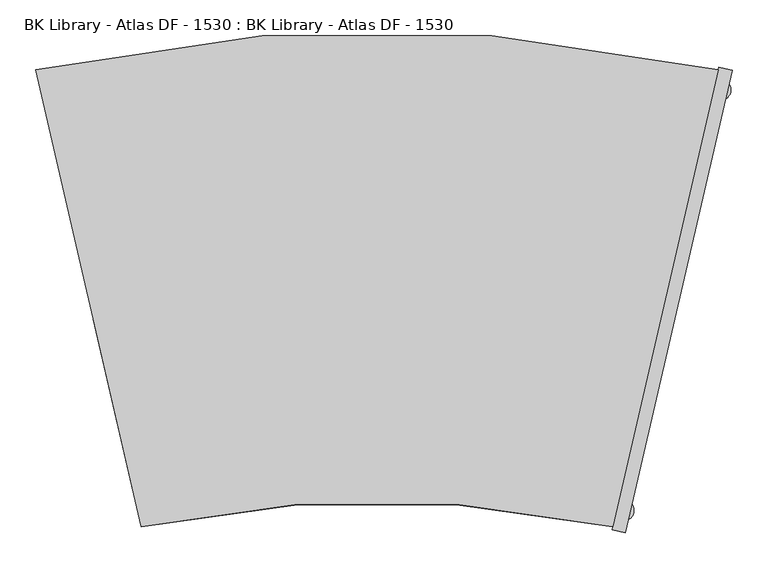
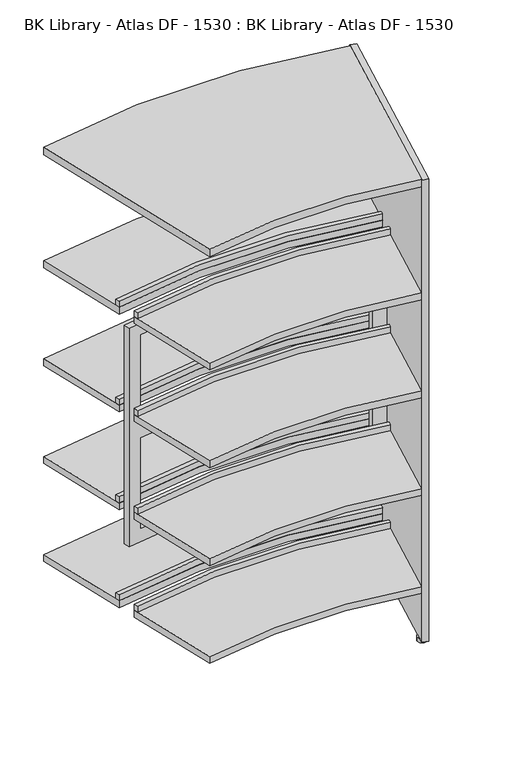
"""IFC4 building model written with IfcOpenShell, lengths in millimetres: furniture geometry, BK Library - Atlas DF - 1530 : BK Library - Atlas DF - 1530."""

from ifc_helpers import new_model, si_unit, point, frame, frame_2d, origin, origin_with_axes, place, context, project, spatial, polyline, circle_curve, trimmed, segment, composite_curve, outline, extrude, source, transform, mapped, element, save
from ifc_brep_helpers import plane_surface, cylinder_surface, revolved_surface, advanced_brep


def bk_library_atlas_df_1530_bk_library_atlas_df_1530_acc2bcb0(model_context):
    return source(origin(), model_context, "Body", "SolidModel", [
        extrude(outline(composite_curve([segment(trimmed(circle_curve(frame_2d((0.0, -1777.8812307)), 2148.52767), [point((-474.1962162, 317.663829))], [point((474.1962162, 317.663829))], False, "CARTESIAN"), True, "CONTINUOUS"), segment(polyline([(474.1962162, 317.663829), (327.6944521, -317.663829)]), True, "CONTINUOUS"), segment(trimmed(circle_curve(frame_2d((0.0, -1840.4430404)), 1557.6392973), [point((327.6944521, -317.663829))], [point((-327.6944521, -317.663829))], True, "CARTESIAN"), True, "CONTINUOUS"), segment(polyline([(-327.6944521, -317.663829), (-474.1962162, 317.663829)]), True, "CONTINUOUS")], self_intersect=False)), frame((0.0, 0.0, 1501.6999998), z_axis=(0.0, 0.0, 1.0), x_axis=(1.0, 0.0, 0.0)), (0.0, 0.0, 1.0), 24.0),
        advanced_brep(
        [(-403.1922937, 9.7442892, 1106.1999998), (-398.6983746, -9.7442892, 1106.1999998), (398.6983746, -9.7442892, 1106.1999998), (403.1922937, 9.7442892, 1106.1999998), (-403.1922937, 9.7442892, 391.1999998), (403.1922937, 9.7442892, 391.1999998), (398.6983746, -9.7442892, 391.1999998), (-398.6983746, -9.7442892, 391.1999998), (359.7000463, -1.6061954, 1066.1999998), (359.7000463, -1.6061954, 768.6999998), (-359.7212176, -1.6103769, 768.6999998), (-359.7212176, -1.6103769, 1066.1999998), (-359.7212176, -1.6103769, 728.6999998), (359.7000463, -1.6061954, 728.6999998), (359.7000463, -1.6061954, 431.1999998), (-359.7212176, -1.6103769, 431.1999998), (359.7000463, 18.8192746, 768.6999998), (359.7000463, 18.8192746, 1066.1999998), (-359.7212176, 18.8151191, 1066.1999998), (-359.7212176, 18.8151191, 768.6999998), (359.7000463, 18.8192746, 728.6999998), (-359.7212176, 18.8151191, 728.6999998), (-359.7212176, 18.8151191, 431.1999998), (359.7000463, 18.8192746, 431.1999998)],
        [
            (0, 1),
            (1, 2, circle_curve(frame((0.0, -1822.824997, 1106.1999998), z_axis=(0.0, 0.0, -1.0), x_axis=(1.0, 0.0, 0.0)), 1856.4002927)),
            (2, 3),
            (3, 0, circle_curve(frame((0.0, -1813.8149651, 1106.1999998), z_axis=(0.0, 0.0, 1.0), x_axis=(1.0, 0.0, 0.0)), 1867.6007014)),
            (4, 5, circle_curve(frame((0.0, -1813.8149651, 391.1999998), z_axis=(0.0, 0.0, -1.0), x_axis=(1.0, 0.0, 0.0)), 1867.6007014)),
            (5, 6),
            (6, 7, circle_curve(frame((0.0, -1822.824997, 391.1999998), z_axis=(0.0, 0.0, 1.0), x_axis=(1.0, 0.0, 0.0)), 1856.4002927)),
            (7, 4),
            (0, 4),
            (7, 1),
            (2, 6),
            (5, 3),
            (8, 9),
            (9, 10, circle_curve(frame((0.0, -1822.824997, 768.6999998), z_axis=(0.0, 0.0, 1.0), x_axis=(1.0, 0.0, 0.0)), 1856.4002927)),
            (10, 11),
            (11, 8, circle_curve(frame((0.0, -1822.824997, 1066.1999998), z_axis=(0.0, 0.0, -1.0), x_axis=(1.0, 0.0, 0.0)), 1856.4002927)),
            (12, 13, circle_curve(frame((0.0, -1822.824997, 728.6999998), z_axis=(0.0, 0.0, -1.0), x_axis=(1.0, 0.0, 0.0)), 1856.4002927)),
            (13, 14),
            (14, 15, circle_curve(frame((0.0, -1822.824997, 431.1999998), z_axis=(0.0, 0.0, 1.0), x_axis=(1.0, 0.0, 0.0)), 1856.4002927)),
            (15, 12),
            (16, 17),
            (17, 18, circle_curve(frame((0.0, -1813.8149651, 1066.1999998), z_axis=(0.0, 0.0, 1.0), x_axis=(1.0, 0.0, 0.0)), 1867.6007014)),
            (18, 19),
            (19, 16, circle_curve(frame((0.0, -1813.8149651, 768.6999998), z_axis=(0.0, 0.0, -1.0), x_axis=(1.0, 0.0, 0.0)), 1867.6007014)),
            (20, 21, circle_curve(frame((0.0, -1813.8149651, 728.6999998), z_axis=(0.0, 0.0, 1.0), x_axis=(1.0, 0.0, 0.0)), 1867.6007014)),
            (21, 22),
            (22, 23, circle_curve(frame((0.0, -1813.8149651, 431.1999998), z_axis=(0.0, 0.0, -1.0), x_axis=(1.0, 0.0, 0.0)), 1867.6007014)),
            (23, 20),
            (16, 9),
            (8, 17),
            (11, 18),
            (10, 19),
            (20, 13),
            (12, 21),
            (15, 22),
            (14, 23),
        ],
        [
            plane_surface(frame((-326.7956683, -321.5615447, 1106.1999998), z_axis=(0.0, 0.0, 1.0), x_axis=(0.224695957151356, -0.9744289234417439, 0.0))),
            plane_surface(frame((-326.7956683, -321.5615447, 391.1999998), z_axis=(0.0, 0.0, -1.0), x_axis=(-0.224695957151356, 0.9744289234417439, 0.0))),
            plane_surface(frame((-403.1922937, 9.7442892, 1106.1999998), z_axis=(-0.9744289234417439, -0.224695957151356, 0.0), x_axis=(0.0, 0.0, -1.0))),
            plane_surface(frame((398.6983746, -9.7442892, 1106.1999998), z_axis=(0.974428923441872, -0.22469595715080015, 0.0), x_axis=(0.0, 0.0, -1.0))),
            revolved_surface(polyline([(1856.4002927, -1822.824997, 391.1999998), (1856.4002927, -1822.824997, 1106.1999998)]), (0.0, -1822.824997, 391.1999998), (0.0, 0.0, -1.0)),
            cylinder_surface(frame((0.0, -1813.8149651, 391.1999998), z_axis=(0.0, 0.0, 1.0), x_axis=(1.0, 0.0, 0.0)), 1867.6007014),
            plane_surface(frame((359.7000463, -114.4923923, 768.6999998), z_axis=(-1.0, 0.0, 0.0), x_axis=(0.0, 1.0, 0.0))),
            plane_surface(frame((359.7000463, -114.4923923, 1066.1999998), z_axis=(0.0, 0.0, -1.0), x_axis=(0.0, 1.0, 0.0))),
            plane_surface(frame((-359.7212176, -114.4923923, 1066.1999998), z_axis=(1.0, 0.0, 0.0), x_axis=(0.0, 1.0, 0.0))),
            plane_surface(frame((-359.7212176, -114.4923923, 768.6999998), z_axis=(0.0, 0.0, 1.0), x_axis=(0.0, 1.0, 0.0))),
            plane_surface(frame((359.7000463, -114.4923923, 728.6999998), z_axis=(0.0, 0.0, -1.0), x_axis=(0.0, 1.0, 0.0))),
            plane_surface(frame((-359.7212176, -114.4923923, 728.6999998), z_axis=(1.0, 0.0, 0.0), x_axis=(0.0, 1.0, 0.0))),
            plane_surface(frame((-359.7212176, -114.4923923, 431.1999998), z_axis=(0.0, 0.0, 1.0), x_axis=(0.0, 1.0, 0.0))),
            plane_surface(frame((359.7000463, -114.4923923, 431.1999998), z_axis=(-1.0, 0.0, 0.0), x_axis=(0.0, 1.0, 0.0))),
        ],
        [
            (0, [[1, 2, 3, 4]]),
            (1, [[5, 6, 7, 8]]),
            (2, [[-1, 9, -8, 10]]),
            (3, [[-3, 11, -6, 12]]),
            (4, [[-2, -10, -7, -11], [13, 14, 15, 16], [17, 18, 19, 20]]),
            (5, [[-4, -12, -5, -9], [21, 22, 23, 24], [25, 26, 27, 28]]),
            (6, [[29, -13, 30, -21]]),
            (7, [[-30, -16, 31, -22]]),
            (8, [[-31, -15, 32, -23]]),
            (9, [[-29, -24, -32, -14]]),
            (10, [[33, -17, 34, -25]]),
            (11, [[-34, -20, 35, -26]]),
            (12, [[-35, -19, 36, -27]]),
            (13, [[-33, -28, -36, -18]]),
        ],
    ),
        extrude(outline(composite_curve([segment(trimmed(circle_curve(frame_2d((0.0, -1840.4430404)), 1557.6392973), [point((327.6944521, -317.663829))], [point((-327.6944521, -317.663829))], True, "CARTESIAN"), True, "CONTINUOUS"), segment(polyline([(-327.6944521, -317.663829), (-394.2058088, -29.2269986)]), True, "CONTINUOUS"), segment(trimmed(circle_curve(frame_2d((0.0, -1785.1487517)), 1799.627579), [point((-394.2058088, -29.2269986))], [point((394.2058088, -29.2269986))], False, "CARTESIAN"), True, "CONTINUOUS"), segment(polyline([(394.2058088, -29.2269986), (327.6944521, -317.663829)]), True, "CONTINUOUS")], self_intersect=False)), frame((0.0, 0.0, 171.6999998), z_axis=(0.0, 0.0, 1.0), x_axis=(1.0, 0.0, 0.0)), (0.0, 0.0, 1.0), 22.0),
        extrude(outline(composite_curve([segment(trimmed(circle_curve(frame_2d((0.0, -1777.8812307)), 2148.52767), [point((-474.1962162, 317.663829))], [point((474.1962162, 317.663829))], False, "CARTESIAN"), True, "CONTINUOUS"), segment(polyline([(474.1962162, 317.663829), (407.6853202, 29.2289965)]), True, "CONTINUOUS"), segment(trimmed(circle_curve(frame_2d((0.0, -1798.2835703)), 1872.4341116), [point((407.6853202, 29.2289965))], [point((-407.6853202, 29.2289965))], True, "CARTESIAN"), True, "CONTINUOUS"), segment(polyline([(-407.6853202, 29.2289965), (-474.1962162, 317.663829)]), True, "CONTINUOUS")], self_intersect=False)), frame((0.0, 0.0, 171.6999998), z_axis=(0.0, 0.0, 1.0), x_axis=(1.0, 0.0, 0.0)), (0.0, 0.0, 1.0), 22.0),
        extrude(outline(composite_curve([segment(trimmed(circle_curve(frame_2d((0.0, -1840.4430404)), 1557.6392973), [point((327.6944521, -317.663829))], [point((-327.6944521, -317.663829))], True, "CARTESIAN"), True, "CONTINUOUS"), segment(polyline([(-327.6944521, -317.663829), (-394.2058088, -29.2269986)]), True, "CONTINUOUS"), segment(trimmed(circle_curve(frame_2d((0.0, -1785.1487517)), 1799.627579), [point((-394.2058088, -29.2269986))], [point((394.2058088, -29.2269986))], False, "CARTESIAN"), True, "CONTINUOUS"), segment(polyline([(394.2058088, -29.2269986), (327.6944521, -317.663829)]), True, "CONTINUOUS")], self_intersect=False)), frame((0.0, 0.0, 491.6999998), z_axis=(0.0, 0.0, 1.0), x_axis=(1.0, 0.0, 0.0)), (0.0, 0.0, 1.0), 22.0),
        extrude(outline(composite_curve([segment(trimmed(circle_curve(frame_2d((0.0, -1777.8812307)), 2148.52767), [point((-474.1962162, 317.663829))], [point((474.1962162, 317.663829))], False, "CARTESIAN"), True, "CONTINUOUS"), segment(polyline([(474.1962162, 317.663829), (407.6853202, 29.2289965)]), True, "CONTINUOUS"), segment(trimmed(circle_curve(frame_2d((0.0, -1798.2835703)), 1872.4341116), [point((407.6853202, 29.2289965))], [point((-407.6853202, 29.2289965))], True, "CARTESIAN"), True, "CONTINUOUS"), segment(polyline([(-407.6853202, 29.2289965), (-474.1962162, 317.663829)]), True, "CONTINUOUS")], self_intersect=False)), frame((0.0, 0.0, 491.6999998), z_axis=(0.0, 0.0, 1.0), x_axis=(1.0, 0.0, 0.0)), (0.0, 0.0, 1.0), 22.0),
        extrude(outline(composite_curve([segment(trimmed(circle_curve(frame_2d((0.0, -1840.4430404)), 1557.6392973), [point((327.6944521, -317.663829))], [point((-327.6944521, -317.663829))], True, "CARTESIAN"), True, "CONTINUOUS"), segment(polyline([(-327.6944521, -317.663829), (-394.2058088, -29.2269986)]), True, "CONTINUOUS"), segment(trimmed(circle_curve(frame_2d((0.0, -1785.1487517)), 1799.627579), [point((-394.2058088, -29.2269986))], [point((394.2058088, -29.2269986))], False, "CARTESIAN"), True, "CONTINUOUS"), segment(polyline([(394.2058088, -29.2269986), (327.6944521, -317.663829)]), True, "CONTINUOUS")], self_intersect=False)), frame((0.0, 0.0, 811.6999998), z_axis=(0.0, 0.0, 1.0), x_axis=(1.0, 0.0, 0.0)), (0.0, 0.0, 1.0), 22.0),
        extrude(outline(composite_curve([segment(trimmed(circle_curve(frame_2d((0.0, -1777.8812307)), 2148.52767), [point((-474.1962162, 317.663829))], [point((474.1962162, 317.663829))], False, "CARTESIAN"), True, "CONTINUOUS"), segment(polyline([(474.1962162, 317.663829), (407.6853202, 29.2289965)]), True, "CONTINUOUS"), segment(trimmed(circle_curve(frame_2d((0.0, -1798.2835703)), 1872.4341116), [point((407.6853202, 29.2289965))], [point((-407.6853202, 29.2289965))], True, "CARTESIAN"), True, "CONTINUOUS"), segment(polyline([(-407.6853202, 29.2289965), (-474.1962162, 317.663829)]), True, "CONTINUOUS")], self_intersect=False)), frame((0.0, 0.0, 811.6999998), z_axis=(0.0, 0.0, 1.0), x_axis=(1.0, 0.0, 0.0)), (0.0, 0.0, 1.0), 22.0),
        extrude(outline(composite_curve([segment(trimmed(circle_curve(frame_2d((0.0, -1840.4430404)), 1557.6392973), [point((327.6944521, -317.663829))], [point((-327.6944521, -317.663829))], True, "CARTESIAN"), True, "CONTINUOUS"), segment(polyline([(-327.6944521, -317.663829), (-394.2058088, -29.2269986)]), True, "CONTINUOUS"), segment(trimmed(circle_curve(frame_2d((0.0, -1785.1487517)), 1799.627579), [point((-394.2058088, -29.2269986))], [point((394.2058088, -29.2269986))], False, "CARTESIAN"), True, "CONTINUOUS"), segment(polyline([(394.2058088, -29.2269986), (327.6944521, -317.663829)]), True, "CONTINUOUS")], self_intersect=False)), frame((0.0, 0.0, 1131.6999998), z_axis=(0.0, 0.0, 1.0), x_axis=(1.0, 0.0, 0.0)), (0.0, 0.0, 1.0), 22.0),
        extrude(outline(composite_curve([segment(trimmed(circle_curve(frame_2d((0.0, -1777.8812307)), 2148.52767), [point((-474.1962162, 317.663829))], [point((474.1962162, 317.663829))], False, "CARTESIAN"), True, "CONTINUOUS"), segment(polyline([(474.1962162, 317.663829), (407.6853202, 29.2289965)]), True, "CONTINUOUS"), segment(trimmed(circle_curve(frame_2d((0.0, -1798.2835703)), 1872.4341116), [point((407.6853202, 29.2289965))], [point((-407.6853202, 29.2289965))], True, "CARTESIAN"), True, "CONTINUOUS"), segment(polyline([(-407.6853202, 29.2289965), (-474.1962162, 317.663829)]), True, "CONTINUOUS")], self_intersect=False)), frame((0.0, 0.0, 1131.6999998), z_axis=(0.0, 0.0, 1.0), x_axis=(1.0, 0.0, 0.0)), (0.0, 0.0, 1.0), 22.0),
        extrude(outline(composite_curve([segment(trimmed(circle_curve(frame_2d((0.0, -1785.1487517)), 1799.627579), [point((-394.2058088, -29.2269986))], [point((394.2058088, -29.2269986))], False, "CARTESIAN"), True, "CONTINUOUS"), segment(polyline([(394.2058088, -29.2269986), (391.2848087, -41.8943694)]), True, "CONTINUOUS"), segment(trimmed(circle_curve(frame_2d((0.0, -1790.5831955)), 1791.9309172), [point((391.2848087, -41.8943694))], [point((-391.2848087, -41.8943694))], True, "CARTESIAN"), True, "CONTINUOUS"), segment(polyline([(-391.2848087, -41.8943694), (-394.2058088, -29.2269986)]), True, "CONTINUOUS")], self_intersect=False)), frame((0.0, 0.0, 193.6999998), z_axis=(0.0, 0.0, 1.0), x_axis=(1.0, 0.0, 0.0)), (0.0, 0.0, 1.0), 20.0),
        extrude(outline(composite_curve([segment(trimmed(circle_curve(frame_2d((0.0, -1776.6858327)), 1864.3585062), [point((-410.605951, 41.8947656))], [point((410.605951, 41.8947656))], False, "CARTESIAN"), True, "CONTINUOUS"), segment(polyline([(410.605951, 41.8947656), (407.6853202, 29.2289965)]), True, "CONTINUOUS"), segment(trimmed(circle_curve(frame_2d((0.0, -1798.2835703)), 1872.4341116), [point((407.6853202, 29.2289965))], [point((-407.6853202, 29.2289965))], True, "CARTESIAN"), True, "CONTINUOUS"), segment(polyline([(-407.6853202, 29.2289965), (-410.605951, 41.8947656)]), True, "CONTINUOUS")], self_intersect=False)), frame((0.0, 0.0, 193.6999998), z_axis=(0.0, 0.0, 1.0), x_axis=(1.0, 0.0, 0.0)), (0.0, 0.0, 1.0), 20.0),
        extrude(outline(composite_curve([segment(trimmed(circle_curve(frame_2d((0.0, -1785.1487517)), 1799.627579), [point((-394.2058088, -29.2269986))], [point((394.2058088, -29.2269986))], False, "CARTESIAN"), True, "CONTINUOUS"), segment(polyline([(394.2058088, -29.2269986), (391.2848087, -41.8943694)]), True, "CONTINUOUS"), segment(trimmed(circle_curve(frame_2d((0.0, -1790.5831955)), 1791.9309172), [point((391.2848087, -41.8943694))], [point((-391.2848087, -41.8943694))], True, "CARTESIAN"), True, "CONTINUOUS"), segment(polyline([(-391.2848087, -41.8943694), (-394.2058088, -29.2269986)]), True, "CONTINUOUS")], self_intersect=False)), frame((0.0, 0.0, 513.6999998), z_axis=(0.0, 0.0, 1.0), x_axis=(1.0, 0.0, 0.0)), (0.0, 0.0, 1.0), 20.0),
        extrude(outline(composite_curve([segment(trimmed(circle_curve(frame_2d((0.0, -1776.6858327)), 1864.3585062), [point((-410.605951, 41.8947656))], [point((410.605951, 41.8947656))], False, "CARTESIAN"), True, "CONTINUOUS"), segment(polyline([(410.605951, 41.8947656), (407.6853202, 29.2289965)]), True, "CONTINUOUS"), segment(trimmed(circle_curve(frame_2d((0.0, -1798.2835703)), 1872.4341116), [point((407.6853202, 29.2289965))], [point((-407.6853202, 29.2289965))], True, "CARTESIAN"), True, "CONTINUOUS"), segment(polyline([(-407.6853202, 29.2289965), (-410.605951, 41.8947656)]), True, "CONTINUOUS")], self_intersect=False)), frame((0.0, 0.0, 513.6999998), z_axis=(0.0, 0.0, 1.0), x_axis=(1.0, 0.0, 0.0)), (0.0, 0.0, 1.0), 20.0),
        extrude(outline(composite_curve([segment(trimmed(circle_curve(frame_2d((0.0, -1785.1487517)), 1799.627579), [point((-394.2058088, -29.2269986))], [point((394.2058088, -29.2269986))], False, "CARTESIAN"), True, "CONTINUOUS"), segment(polyline([(394.2058088, -29.2269986), (391.2848087, -41.8943694)]), True, "CONTINUOUS"), segment(trimmed(circle_curve(frame_2d((0.0, -1790.5831955)), 1791.9309172), [point((391.2848087, -41.8943694))], [point((-391.2848087, -41.8943694))], True, "CARTESIAN"), True, "CONTINUOUS"), segment(polyline([(-391.2848087, -41.8943694), (-394.2058088, -29.2269986)]), True, "CONTINUOUS")], self_intersect=False)), frame((0.0, 0.0, 833.6999998), z_axis=(0.0, 0.0, 1.0), x_axis=(1.0, 0.0, 0.0)), (0.0, 0.0, 1.0), 20.0),
        extrude(outline(composite_curve([segment(trimmed(circle_curve(frame_2d((0.0, -1776.6858327)), 1864.3585062), [point((-410.605951, 41.8947656))], [point((410.605951, 41.8947656))], False, "CARTESIAN"), True, "CONTINUOUS"), segment(polyline([(410.605951, 41.8947656), (407.6853202, 29.2289965)]), True, "CONTINUOUS"), segment(trimmed(circle_curve(frame_2d((0.0, -1798.2835703)), 1872.4341116), [point((407.6853202, 29.2289965))], [point((-407.6853202, 29.2289965))], True, "CARTESIAN"), True, "CONTINUOUS"), segment(polyline([(-407.6853202, 29.2289965), (-410.605951, 41.8947656)]), True, "CONTINUOUS")], self_intersect=False)), frame((0.0, 0.0, 833.6999998), z_axis=(0.0, 0.0, 1.0), x_axis=(1.0, 0.0, 0.0)), (0.0, 0.0, 1.0), 20.0),
        extrude(outline(composite_curve([segment(trimmed(circle_curve(frame_2d((0.0, -1785.1487517)), 1799.627579), [point((-394.2058088, -29.2269986))], [point((394.2058088, -29.2269986))], False, "CARTESIAN"), True, "CONTINUOUS"), segment(polyline([(394.2058088, -29.2269986), (391.2848087, -41.8943694)]), True, "CONTINUOUS"), segment(trimmed(circle_curve(frame_2d((0.0, -1790.5831955)), 1791.9309172), [point((391.2848087, -41.8943694))], [point((-391.2848087, -41.8943694))], True, "CARTESIAN"), True, "CONTINUOUS"), segment(polyline([(-391.2848087, -41.8943694), (-394.2058088, -29.2269986)]), True, "CONTINUOUS")], self_intersect=False)), frame((0.0, 0.0, 1153.6999998), z_axis=(0.0, 0.0, 1.0), x_axis=(1.0, 0.0, 0.0)), (0.0, 0.0, 1.0), 20.0),
        extrude(outline(composite_curve([segment(trimmed(circle_curve(frame_2d((0.0, -1776.6858327)), 1864.3585062), [point((-410.605951, 41.8947656))], [point((410.605951, 41.8947656))], False, "CARTESIAN"), True, "CONTINUOUS"), segment(polyline([(410.605951, 41.8947656), (407.6853202, 29.2289965)]), True, "CONTINUOUS"), segment(trimmed(circle_curve(frame_2d((0.0, -1798.2835703)), 1872.4341116), [point((407.6853202, 29.2289965))], [point((-407.6853202, 29.2289965))], True, "CARTESIAN"), True, "CONTINUOUS"), segment(polyline([(-407.6853202, 29.2289965), (-410.605951, 41.8947656)]), True, "CONTINUOUS")], self_intersect=False)), frame((0.0, 0.0, 1153.6999998), z_axis=(0.0, 0.0, 1.0), x_axis=(1.0, 0.0, 0.0)), (0.0, 0.0, 1.0), 20.0),
        extrude(outline(polyline([(475.095, 321.5615447), (493.6091495, 317.2923215), (345.3098178, -325.8307679), (326.7956683, -321.5615447), (475.095, 321.5615447)])), frame((0.0, 0.0, 13.6999998), z_axis=(0.0, 0.0, 1.0), x_axis=(1.0, 0.0, 0.0)), (0.0, 0.0, 1.0), 1512.0),
        extrude(outline(composite_curve([segment(trimmed(circle_curve(frame_2d((477.608406, 290.1883722)), 14.4994573), [point((492.1078633, 290.1883722))], [point((463.1089486, 290.1883722))], False, "CARTESIAN"), True, "CONTINUOUS"), segment(trimmed(circle_curve(frame_2d((477.608406, 290.1883722)), 14.4994573), [point((463.1089486, 290.1883722))], [point((492.1078633, 290.1883722))], False, "CARTESIAN"), True, "CONTINUOUS")], self_intersect=False)), origin_with_axes(), (0.0, 0.0, 1.0), 13.6999998),
        extrude(outline(composite_curve([segment(trimmed(circle_curve(frame_2d((342.7923392, -294.4590973)), 14.4994573), [point((357.2917965, -294.4590973))], [point((328.2928818, -294.4590973))], False, "CARTESIAN"), True, "CONTINUOUS"), segment(trimmed(circle_curve(frame_2d((342.7923392, -294.4590973)), 14.4994573), [point((328.2928818, -294.4590973))], [point((357.2917965, -294.4590973))], False, "CARTESIAN"), True, "CONTINUOUS")], self_intersect=False)), origin_with_axes(), (0.0, 0.0, 1.0), 13.6999998),
    ])


if __name__ == "__main__":
    model = new_model("IFC4")
    model_context = context("Model", 3, world=origin())
    ifc_project = project(units=[si_unit("LENGTHUNIT", "METRE", prefix="MILLI")], contexts=[model_context])
    site = spatial("IfcSite", under=ifc_project)
    building = spatial("IfcBuilding", under=site)
    placement = place(None, origin())
    bk_library_atlas_df_1530_bk_library_atlas_df_1530_shape = bk_library_atlas_df_1530_bk_library_atlas_df_1530_acc2bcb0(model_context)
    element("IfcFurniture", 1, ObjectType="BK Library - Atlas DF - 1530 : BK Library - Atlas DF - 1530", at=placement, inside=building, context=model_context, shape_type="MappedRepresentation", body=[
        mapped(bk_library_atlas_df_1530_bk_library_atlas_df_1530_shape, transform((0.0, 0.0, 0.0), x_axis=(1.0, 0.0, 0.0), y_axis=(0.0, 1.0, 0.0), z_axis=(0.0, 0.0, 1.0))),
    ])
    save(model, "model.ifc")
